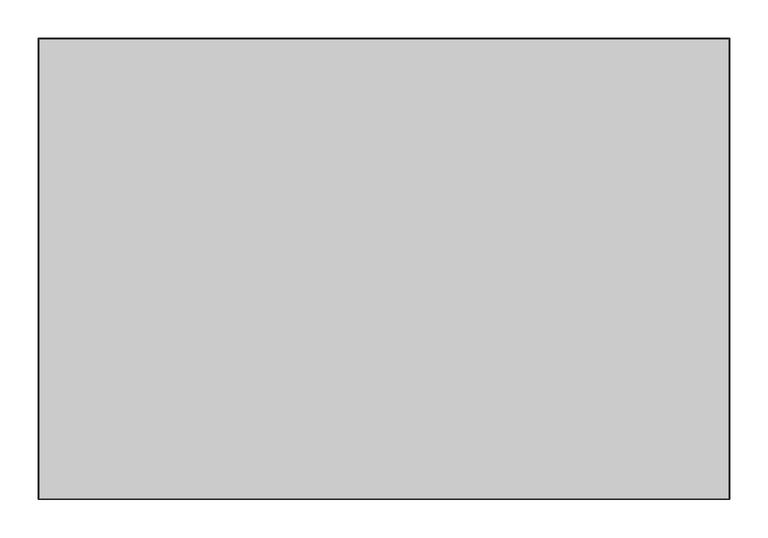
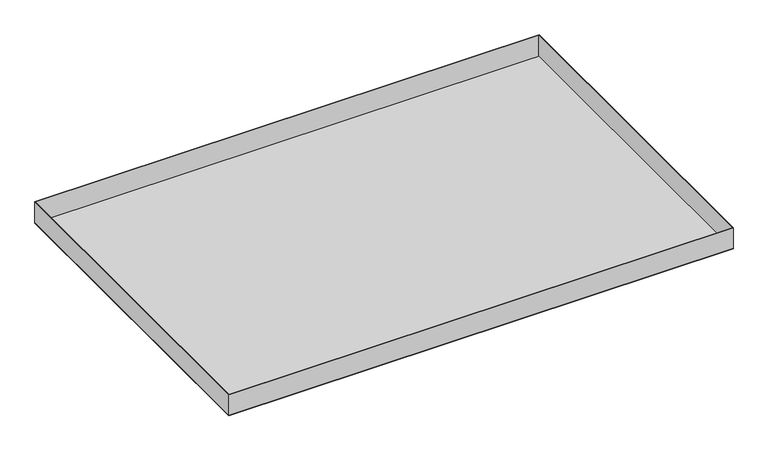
"""IFC4 building model written with IfcOpenShell, lengths in millimetres: proxy geometry, durlum_S5-100_RHOMBOS_panel : durlum_S5-100_RHOMBOS_panel."""

from ifc_helpers import new_model, si_unit, frame, origin, origin_with_axes, place, context, project, spatial, polyline, outline, extrude, source, transform, mapped, element, save


def generic_models_a2a5eb16(model_context):
    return source(origin(), model_context, "Body", "SweptSolid", [
        extrude(outline(polyline([(449.5, 299.75), (449.5, -299.75), (-449.5, -299.75), (-449.5, 299.75), (449.5, 299.75)]), holes=[polyline([(448.5, 298.75), (-448.5, 298.75), (-448.5, -298.75), (448.5, -298.75), (448.5, 298.75)])]), frame((0.0, 0.0, 1.0), z_axis=(0.0, 0.0, 1.0), x_axis=(1.0, 0.0, 0.0)), (0.0, 0.0, 1.0), 39.0),
        extrude(outline(polyline([(449.5, 299.75), (449.5, -299.75), (-449.5, -299.75), (-449.5, 299.75), (449.5, 299.75)])), origin_with_axes(), (0.0, 0.0, 1.0), 1.0),
    ])


if __name__ == "__main__":
    model = new_model("IFC4")
    model_context = context("Model", 3, world=origin())
    ifc_project = project(units=[si_unit("LENGTHUNIT", "METRE", prefix="MILLI")], contexts=[model_context])
    site = spatial("IfcSite", under=ifc_project)
    building = spatial("IfcBuilding", under=site)
    placement = place(None, origin())
    generic_models_shape = generic_models_a2a5eb16(model_context)
    element("IfcBuildingElementProxy", 1, Name="durlum_S5-100_RHOMBOS_panel : durlum_S5-100_RHOMBOS_panel", ObjectType="durlum_S5-100_RHOMBOS_panel : durlum_S5-100_RHOMBOS_panel", at=placement, inside=building, context=model_context, shape_type="MappedRepresentation", body=[
        mapped(generic_models_shape, transform((0.0, 0.0, 0.0), x_axis=(1.0, 0.0, 0.0), y_axis=(0.0, 1.0, 0.0), z_axis=(0.0, 0.0, 1.0))),
    ])
    save(model, "model.ifc")
